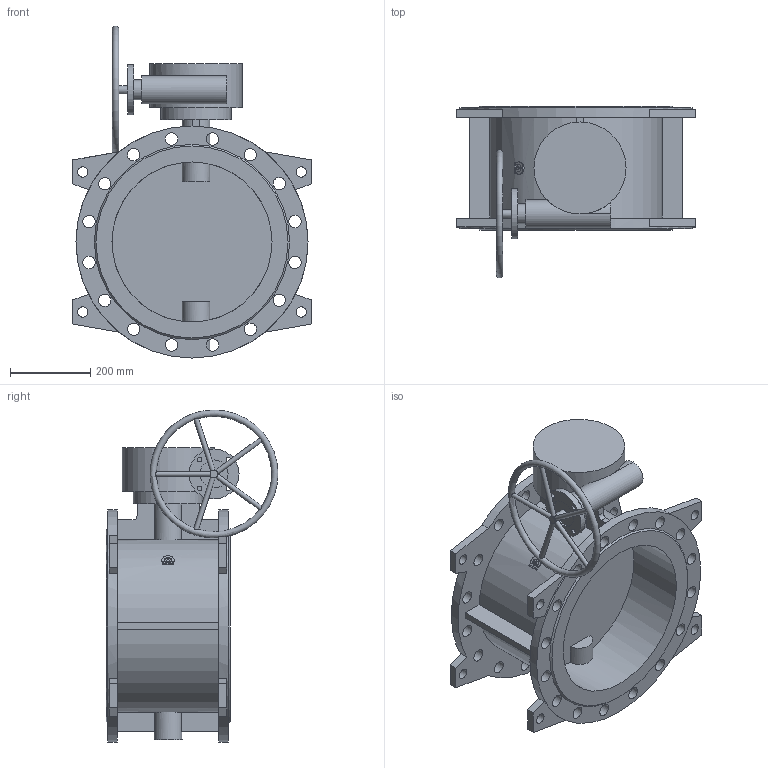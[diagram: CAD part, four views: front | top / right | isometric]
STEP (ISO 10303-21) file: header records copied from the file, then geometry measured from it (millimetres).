
FILE_DESCRIPTION(('STEP AP203'), '1');
FILE_NAME('Çàòâîð 023F.Z DN400 PN16_ìàõ', '', ('UNSPECIFIED'), ('UNSPECIFIED'), 'ASCON STEP Converter 1.6', 'ASCON Math Kernel', '');
FILE_SCHEMA(('CONFIG_CONTROL_DESIGN'));
Length unit declared in the file: millimetre
Bounding box: 596 x 429.99 x 829.98 mm (x, y, z)
Volume: 25512344.1 mm3; surface area: 2107133.4 mm2
Topology: 1 solids, 1 shells, 182 faces, 486 edges, 323 vertices
Faces by surface type: plane 91, cylinder 88, cone 2, torus 1
Full cylindrical faces by diameter (mm): 12 x9, 14 x4, 18 x4, 20 x2, 26 x8, 31 x32, 50 x1, 70 x3, 125 x1, 175 x1, 230 x1, 400 x2, 580 x2
Entity records: 10357 total; most frequent: CARTESIAN_POINT 4379, DIRECTION 899, ORIENTED_EDGE 818, EDGE_CURVE 409, EDGE_LOOP 370, AXIS2_PLACEMENT_3D 358, VERTEX_POINT 321, FACE_BOUND 238
